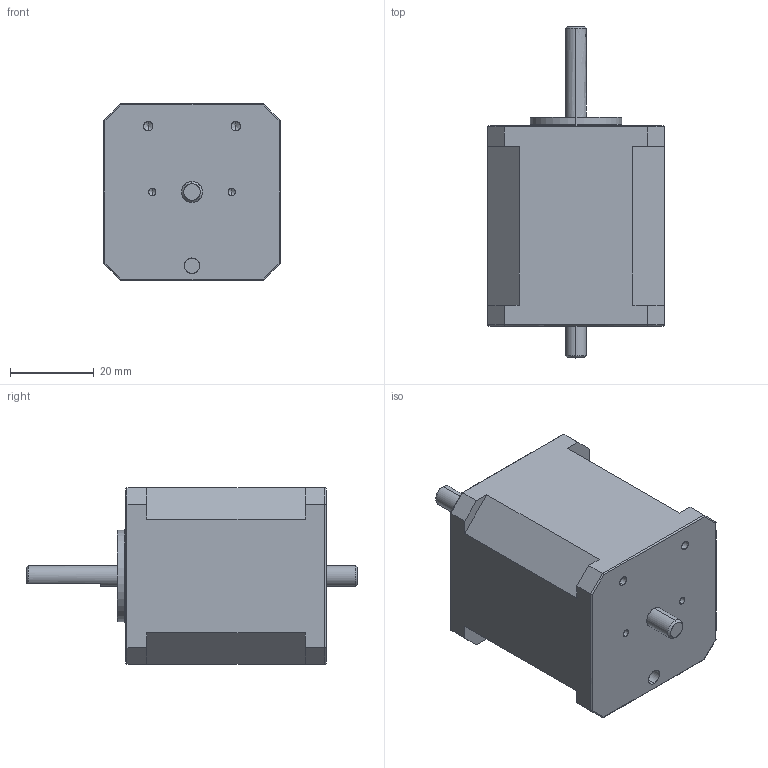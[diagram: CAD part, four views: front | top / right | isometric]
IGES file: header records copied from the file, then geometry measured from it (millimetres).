
Start section: SolidWorks IGES file using analytic representation for surfaces
Global section: file name: C:\Users\Christine\Documents\Arcus\Project #21\STM-17-3\STM-17-3.IGS; native system: SolidWorks 2008; preprocessor: SolidWorks 2008; author: Christine; date: 131011.121257; units: millimetre
Bounding box: 42.3 x 79.5 x 42.3 mm (x, y, z)
Surface area: 12214.7 mm2 (no closed solid volume)
Topology: 0 solids, 0 shells, 93 faces, 985 edges, 969 vertices
Faces by surface type: revolution 59, bspline 34
